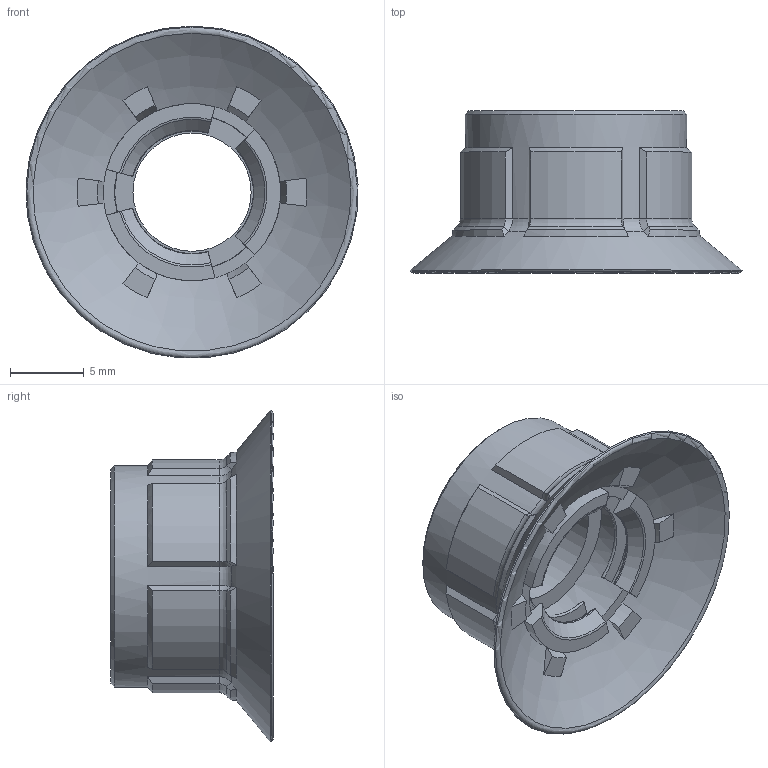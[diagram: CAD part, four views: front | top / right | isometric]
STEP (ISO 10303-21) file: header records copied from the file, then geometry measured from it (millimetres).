
FILE_DESCRIPTION (( 'STEP AP203' ), '1' );
FILE_NAME ('7SP_20PU_A_(ind_A).STEP', '2022-06-08T14:10:31', ( '' ), ( '' ), 'SwSTEP 2.0', 'SolidWorks 2021', '' );
FILE_SCHEMA (( 'CONFIG_CONTROL_DESIGN' ));
Length unit declared in the file: millimetre
Products named in the file (1): 7SP_20PU_A_(ind_A)
Bounding box: 22.48 x 11 x 22.47 mm (x, y, z)
Volume: 1225.7 mm3; surface area: 1553.4 mm2
Topology: 1 solids, 1 shells, 154 faces, 392 edges, 242 vertices
Faces by surface type: plane 53, torus 33, cone 29, bspline 24, cylinder 15
Full cylindrical faces by diameter (mm): 8 x1, 10.5 x1, 15 x1
Entity records: 5563 total; most frequent: CARTESIAN_POINT 2004, ORIENTED_EDGE 754, DIRECTION 692, EDGE_CURVE 377, AXIS2_PLACEMENT_3D 292, VERTEX_POINT 236, EDGE_LOOP 167, CIRCLE 161
